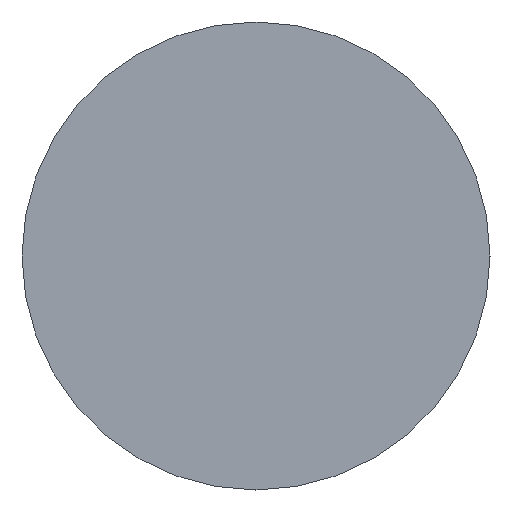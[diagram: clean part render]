
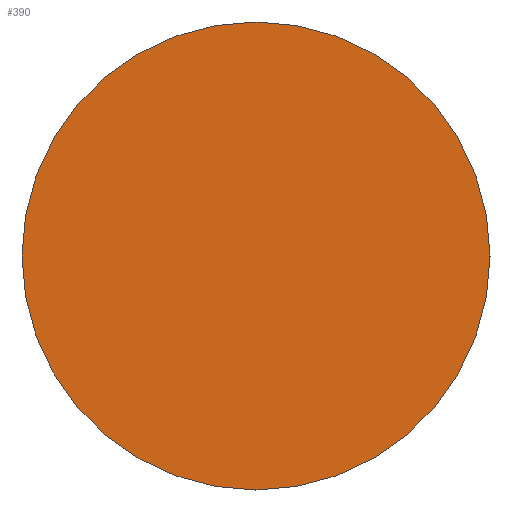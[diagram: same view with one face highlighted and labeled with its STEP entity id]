
A CAD part, left-side view. The second image highlights one B-rep face of the part: STEP entity #390.
In plain terms, the highlighted planar face has unit normal (-1, 0, 0).
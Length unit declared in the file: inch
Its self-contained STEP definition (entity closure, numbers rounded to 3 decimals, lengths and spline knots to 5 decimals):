
#12 = AXIS2_PLACEMENT_3D ( 'NONE', #308, #105, #288 ) ;
#15 = DIRECTION ( 'NONE',  ( 0., 0., 1. ) ) ;
#37 = CARTESIAN_POINT ( 'NONE',  ( -4., 0., 0.375 ) ) ;
#42 = EDGE_CURVE ( 'NONE', #337, #50, #289, .T. ) ;
#50 = VERTEX_POINT ( 'NONE', #272 ) ;
#103 = FACE_OUTER_BOUND ( 'NONE', #403, .T. ) ;
#105 = DIRECTION ( 'NONE',  ( 1., 0., 0. ) ) ;
#144 = CARTESIAN_POINT ( 'NONE',  ( -4., 0., 0. ) ) ;
#149 = PLANE ( 'NONE',  #12 ) ;
#151 = CARTESIAN_POINT ( 'NONE',  ( -4., 0., 0. ) ) ;
#191 = EDGE_CURVE ( 'NONE', #50, #337, #389, .T. ) ;
#194 = DIRECTION ( 'NONE',  ( -1., 0., 0. ) ) ;
#198 = AXIS2_PLACEMENT_3D ( 'NONE', #144, #371, #15 ) ;
#234 = ORIENTED_EDGE ( 'NONE', *, *, #191, .T. ) ;
#272 = CARTESIAN_POINT ( 'NONE',  ( -4., 0., -0.375 ) ) ;
#288 = DIRECTION ( 'NONE',  ( 0., 0., -1. ) ) ;
#289 = CIRCLE ( 'NONE', #428, 0.375 ) ;
#308 = CARTESIAN_POINT ( 'NONE',  ( -4., 0.375, 0. ) ) ;
#337 = VERTEX_POINT ( 'NONE', #37 ) ;
#371 = DIRECTION ( 'NONE',  ( -1., 0., 0. ) ) ;
#372 = DIRECTION ( 'NONE',  ( 0., 0., 1. ) ) ;
#389 = CIRCLE ( 'NONE', #198, 0.375 ) ;
#390 = ADVANCED_FACE ( 'NONE', ( #103 ), #149, .F. ) ;
#403 = EDGE_LOOP ( 'NONE', ( #476, #234 ) ) ;
#428 = AXIS2_PLACEMENT_3D ( 'NONE', #151, #194, #372 ) ;
#476 = ORIENTED_EDGE ( 'NONE', *, *, #42, .T. ) ;
